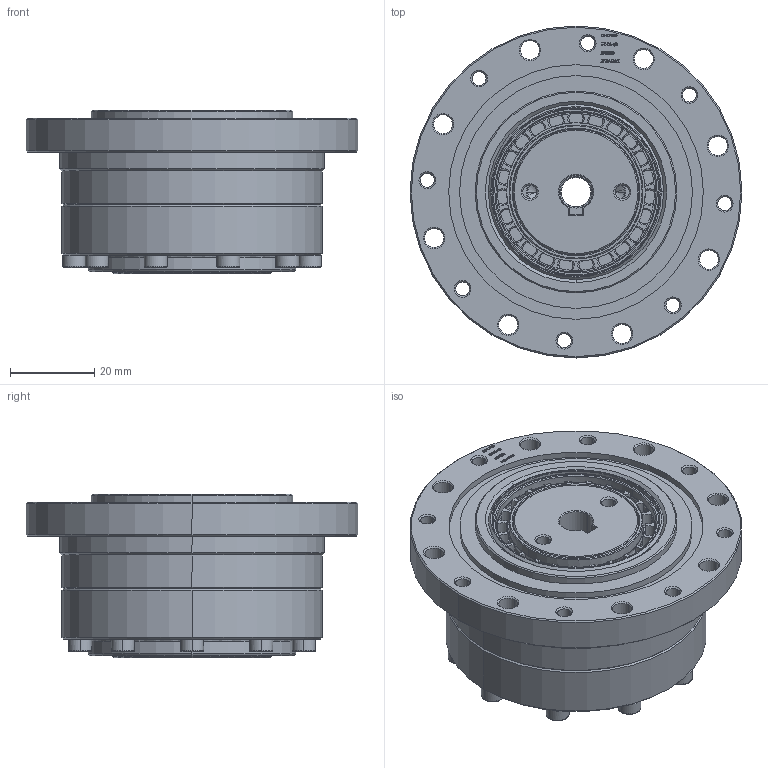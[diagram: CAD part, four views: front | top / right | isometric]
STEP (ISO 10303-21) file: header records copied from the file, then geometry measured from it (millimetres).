
FILE_DESCRIPTION (( 'STEP AP203' ), '1' );
FILE_NAME ('CS-17-XX-U-I-DL-¦Õ8.STEP', '2024-09-12T06:59:57', ( 'Windows User' ), ( 'P R C' ), 'SwSTEP 2.0', 'SolidWorks 2016', '' );
FILE_SCHEMA (( 'CONFIG_CONTROL_DESIGN' ));
Length unit declared in the file: millimetre
Products named in the file (1): CS-17-XX-U-I-DL-耳8
Bounding box: 79 x 79 x 39 mm (x, y, z)
Volume: 89345.7 mm3; surface area: 61393.5 mm2
Topology: 29 solids, 29 shells, 1970 faces, 4773 edges, 2928 vertices
Faces by surface type: plane 752, cone 538, cylinder 364, bspline 316
Entity records: 69086 total; most frequent: CARTESIAN_POINT 24146, ORIENTED_EDGE 9434, DIRECTION 9111, EDGE_CURVE 4717, AXIS2_PLACEMENT_3D 3381, VERTEX_POINT 2928, LINE 2349, VECTOR 2349
